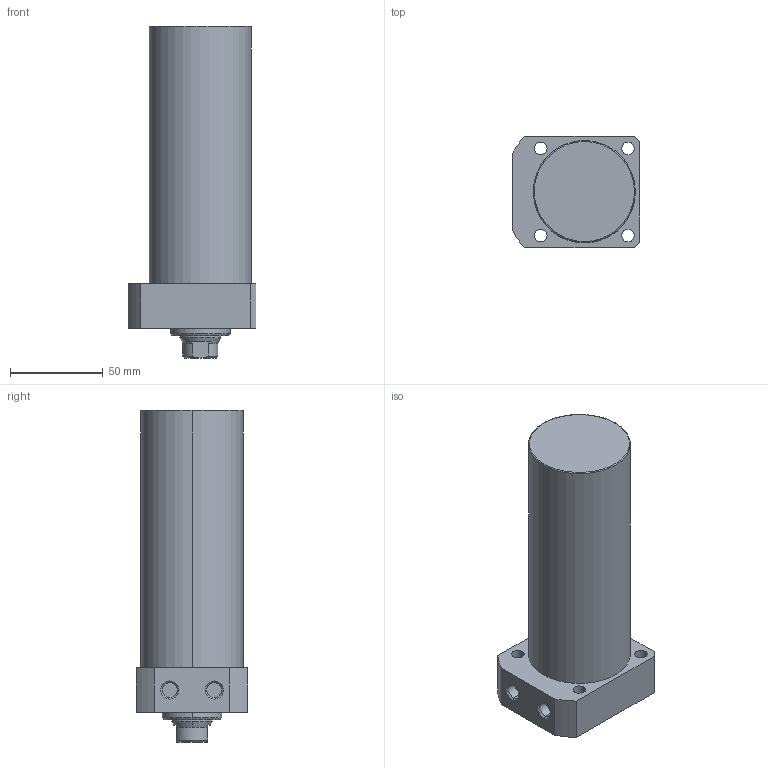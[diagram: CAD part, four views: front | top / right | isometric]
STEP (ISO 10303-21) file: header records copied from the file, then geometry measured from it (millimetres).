
FILE_DESCRIPTION (( 'STEP AP203' ), '1' );
FILE_NAME ('CLLR-055CA-110.STEP', '2019-12-17T11:31:08', ( '' ), ( '' ), 'SwSTEP 2.0', 'SolidWorks 2015', '' );
FILE_SCHEMA (( 'CONFIG_CONTROL_DESIGN' ));
Length unit declared in the file: millimetre
Products named in the file (1): CLLR-055CA-110
Bounding box: 69 x 60 x 179 mm (x, y, z)
Volume: 427867.8 mm3; surface area: 42304.5 mm2
Topology: 1 solids, 1 shells, 65 faces, 150 edges, 93 vertices
Faces by surface type: cylinder 29, plane 19, cone 15, torus 2
Entity records: 1959 total; most frequent: DIRECTION 348, CARTESIAN_POINT 347, ORIENTED_EDGE 296, EDGE_CURVE 148, AXIS2_PLACEMENT_3D 142, VERTEX_POINT 93, EDGE_LOOP 81, CIRCLE 76
